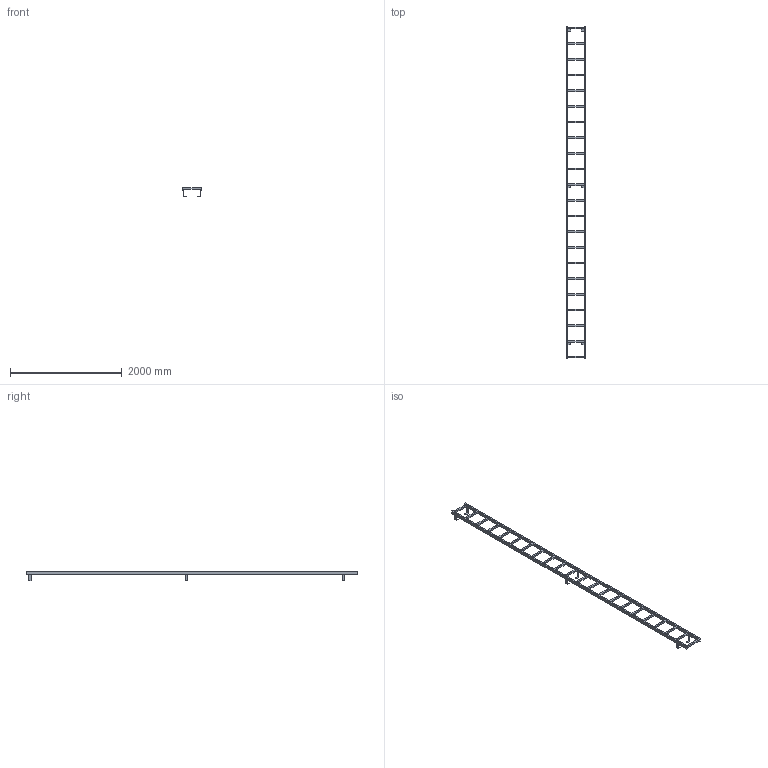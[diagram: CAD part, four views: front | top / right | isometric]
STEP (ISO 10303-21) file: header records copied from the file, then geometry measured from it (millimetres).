
FILE_DESCRIPTION((''),'2;1');
FILE_NAME('017_000109','2017-06-12T',('set'),('HUBER SE'),'PRO/ENGINEER BY PARAMETRIC TECHNOLOGY CORPORATION, 2015280','PRO/ENGINEER BY PARAMETRIC TECHNOLOGY CORPORATION, 2015280','');
FILE_SCHEMA(('CONFIG_CONTROL_DESIGN'));
Length unit declared in the file: millimetre
Products named in the file (1): 017_000109
Bounding box: 350 x 5930 x 178.5 mm (x, y, z)
Volume: 22937940 mm3; surface area: 2792372 mm2
Topology: 1 solids, 1 shells, 146 faces, 533 edges, 383 vertices
Faces by surface type: plane 146
Entity records: 5586 total; most frequent: CARTESIAN_POINT 1125, ORIENTED_EDGE 864, DIRECTION 824, VECTOR 486, LINE 486, EDGE_CURVE 432, VERTEX_POINT 282, EDGE_LOOP 182
